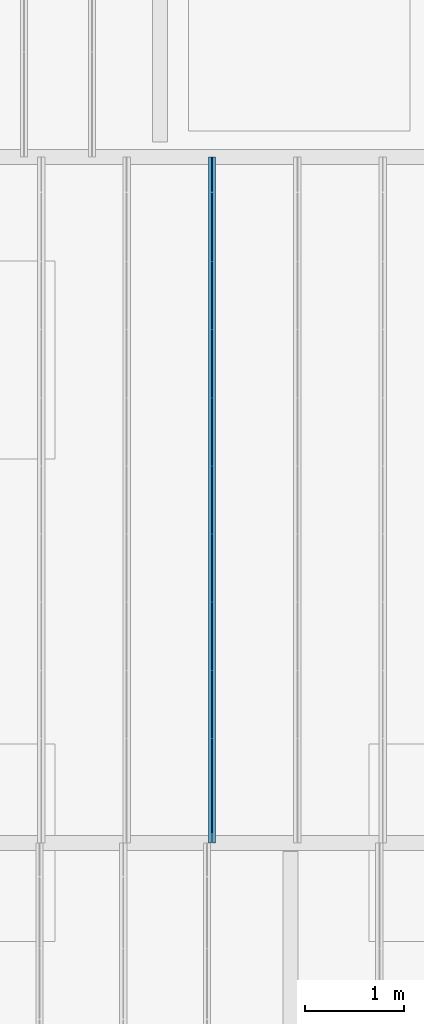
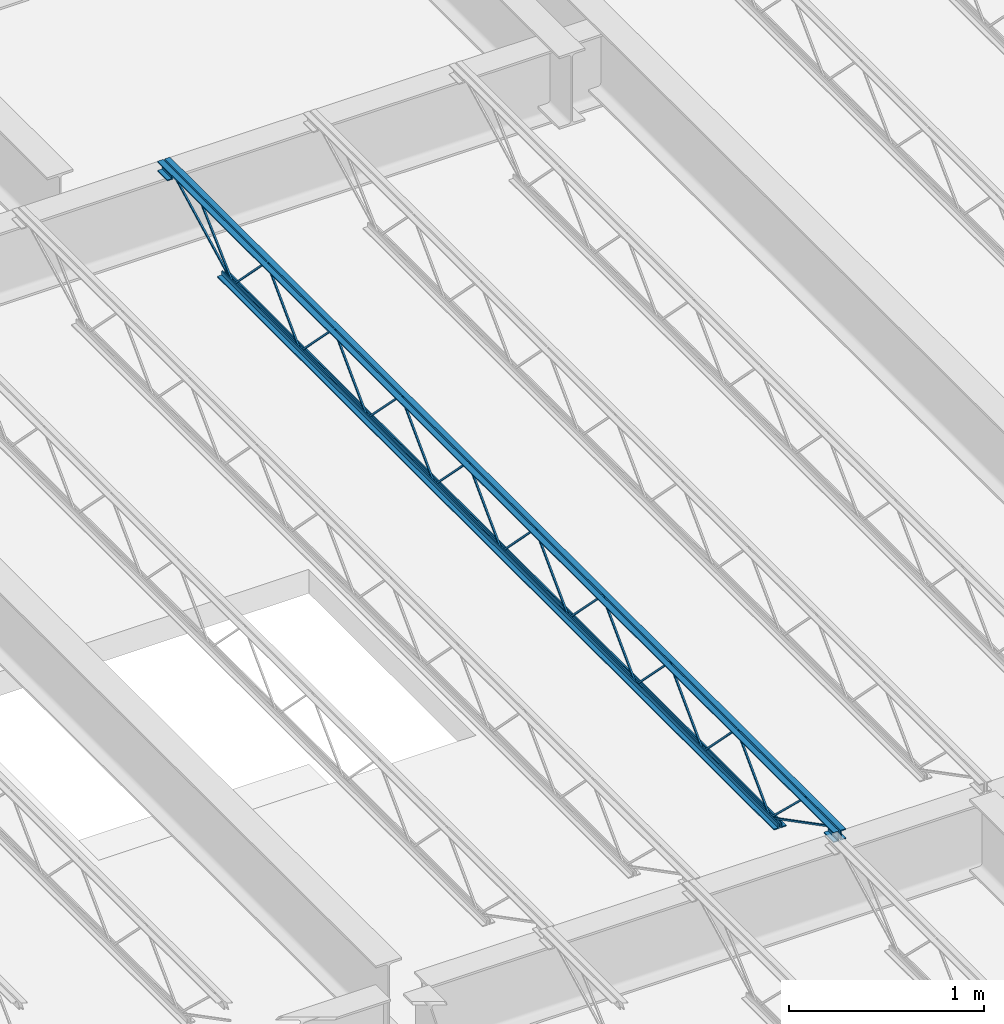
# One storey, part 26 of 75: 1 beam.
"""IFC2X3 building model written with IfcOpenShell, lengths in metres."""

from ifc_helpers import new_model, entity, si_unit, converted_unit, frame, origin, place, context, project, spatial, face_set, surface_model, element, save


model = new_model("IFC2X3")

# Units and contexts
model_context = context("Model", 3, precision=1e-09, world=origin())
plan_context = context("Plan", 3, precision=1e-09, world=origin())
ifc_project = project(units=[si_unit("LENGTHUNIT", "METRE"), si_unit("AREAUNIT", "SQUARE_METRE"), si_unit("VOLUMEUNIT", "CUBIC_METRE"), converted_unit("PLANEANGLEUNIT", "DEGREE", entity("IfcRatioMeasure", 0.01745329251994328), si_unit("PLANEANGLEUNIT", "RADIAN"), dimensions=[0, 0, 0, 0, 0, 0, 0]), si_unit("TIMEUNIT", "SECOND")], contexts=[model_context, plan_context])

# Site, building, storey
site_placement = place(None, origin())
site = spatial("IfcSite", under=ifc_project, at=site_placement, Name="Default", CompositionType="ELEMENT")
building_placement = place(site_placement, origin())
building = spatial("IfcBuilding", under=site, at=building_placement, CompositionType="ELEMENT")
storey_placement = place(building_placement, origin())
storey = spatial("IfcBuildingStorey", under=building, at=storey_placement, Name="First Floor", CompositionType="ELEMENT", Elevation=-3.531500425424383e-13)

# Beam
beam_placement = place(storey_placement, frame((-17.50673749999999, 18.61003029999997, 4.112000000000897), z_axis=(0.0, 0.0, 1.0), x_axis=(-1.0, 0.0, 0.0)))
element("IfcBeam", 1, at=beam_placement, inside=storey, Name="M_K-Series Bar Joist-Rod Web:14K1:14K1", ObjectType="M_K-Series Bar Joist-Rod Web:14K1", context=model_context, shape_type="SurfaceModel", body=[
    surface_model("IfcFaceBasedSurfaceModel", [(-0.03200000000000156, -2.089750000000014, 0.01110000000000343), (-0.04149999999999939, -2.089750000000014, 0.01110000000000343), (-0.04149999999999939, -2.089750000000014, 0.001600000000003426), (-0.03200000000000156, -2.089750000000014, 0.001600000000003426), (-0.04150000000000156, -2.088563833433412, 0.01110000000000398), (-0.03200000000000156, -2.088563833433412, 0.01110000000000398), (-0.0414999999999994, -2.084586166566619, 0.001600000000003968), (-0.04149999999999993, -1.746498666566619, 0.3449000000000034), (-0.04149999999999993, -1.744126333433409, 0.3449000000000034), (-0.04150000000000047, -1.406038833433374, 0.001600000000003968), (-0.04150000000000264, -1.400875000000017, 0.001600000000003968), (-0.04150000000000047, -1.400875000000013, 0.01110000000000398), (-0.04150000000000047, -1.402061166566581, 0.01110000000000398), (-0.04149999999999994, -1.74014866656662, 0.3544000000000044), (-0.04149999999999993, -1.750476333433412, 0.3544000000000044), (-0.0319999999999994, -2.084586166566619, 0.001600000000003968), (-0.03200000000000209, -1.746498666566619, 0.3449000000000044), (-0.0320000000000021, -1.744126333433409, 0.3449000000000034), (-0.03200000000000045, -1.406038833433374, 0.001600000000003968), (-0.03200000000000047, -1.400875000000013, 0.001600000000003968), (-0.03200000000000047, -1.400875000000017, 0.01110000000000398), (-0.03200000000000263, -1.402061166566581, 0.01110000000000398), (-0.0320000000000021, -1.74014866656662, 0.3544000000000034), (-0.03200000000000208, -1.750476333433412, 0.3544000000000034), (-0.03200000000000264, -2.778625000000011, 0.01110000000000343), (-0.04150000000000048, -2.778625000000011, 0.01110000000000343), (-0.04150000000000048, -2.778625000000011, 0.001600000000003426), (-0.03200000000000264, -2.778625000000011, 0.001600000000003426), (-0.04150000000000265, -2.777438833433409, 0.01110000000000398), (-0.03200000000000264, -2.777438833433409, 0.01110000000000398), (-0.04149999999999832, -2.773461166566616, 0.001600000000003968), (-0.04149999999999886, -2.435373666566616, 0.3449000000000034), (-0.04149999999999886, -2.433001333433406, 0.3449000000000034), (-0.04149999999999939, -2.094913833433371, 0.001600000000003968), (-0.04150000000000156, -2.08975000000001, 0.001600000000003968), (-0.04150000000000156, -2.08975000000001, 0.01110000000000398), (-0.04150000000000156, -2.090936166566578, 0.01110000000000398), (-0.04150000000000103, -2.429023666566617, 0.3544000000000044), (-0.04150000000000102, -2.439351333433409, 0.3544000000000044), (-0.03200000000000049, -2.773461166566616, 0.001600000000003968), (-0.03200000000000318, -2.435373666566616, 0.3449000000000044), (-0.03200000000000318, -2.433001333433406, 0.3449000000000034), (-0.03200000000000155, -2.094913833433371, 0.001600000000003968), (-0.03200000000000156, -2.08975000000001, 0.001600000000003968), (-0.03199999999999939, -2.08975000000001, 0.01110000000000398), (-0.03200000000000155, -2.090936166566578, 0.01110000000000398), (-0.03200000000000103, -2.429023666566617, 0.3544000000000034), (-0.03200000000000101, -2.439351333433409, 0.3544000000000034), (-0.03200000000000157, -3.467500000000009, 0.01110000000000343), (-0.04149999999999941, -3.467500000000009, 0.01110000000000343), (-0.04149999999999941, -3.467500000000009, 0.001600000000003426), (-0.03200000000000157, -3.467500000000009, 0.001600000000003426), (-0.04150000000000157, -3.466313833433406, 0.01110000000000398), (-0.03200000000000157, -3.466313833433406, 0.01110000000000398), (-0.04149999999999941, -3.462336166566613, 0.001600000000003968), (-0.04149999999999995, -3.124248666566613, 0.3449000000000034), (-0.04149999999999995, -3.121876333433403, 0.3449000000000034), (-0.04150000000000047, -2.783788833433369, 0.001600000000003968), (-0.04150000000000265, -2.778625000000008, 0.001600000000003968), (-0.04150000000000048, -2.778625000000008, 0.01110000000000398), (-0.04150000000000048, -2.779811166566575, 0.01110000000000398), (-0.04149999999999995, -3.117898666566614, 0.3544000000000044), (-0.04149999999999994, -3.128226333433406, 0.3544000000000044), (-0.03199999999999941, -3.462336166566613, 0.001600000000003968), (-0.0320000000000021, -3.124248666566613, 0.3449000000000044), (-0.03200000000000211, -3.121876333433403, 0.3449000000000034), (-0.03200000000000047, -2.783788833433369, 0.001600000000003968), (-0.03200000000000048, -2.778625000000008, 0.001600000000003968), (-0.03200000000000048, -2.778625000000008, 0.01110000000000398), (-0.03200000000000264, -2.779811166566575, 0.01110000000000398), (-0.03200000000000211, -3.117898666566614, 0.3544000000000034), (-0.0320000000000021, -3.128226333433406, 0.3544000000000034), (-0.03200000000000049, -4.156375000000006, 0.01110000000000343), (-0.04149999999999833, -4.156375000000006, 0.01110000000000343), (-0.04149999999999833, -4.156375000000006, 0.001600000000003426), (-0.03200000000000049, -4.156375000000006, 0.001600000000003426), (-0.0415000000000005, -4.155188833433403, 0.01110000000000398), (-0.03200000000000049, -4.155188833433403, 0.01110000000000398), (-0.04149999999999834, -4.15121116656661, 0.001600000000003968), (-0.04149999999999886, -3.81312366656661, 0.3449000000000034), (-0.04149999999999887, -3.8107513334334, 0.3449000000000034), (-0.0414999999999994, -3.472663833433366, 0.001600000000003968), (-0.04150000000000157, -3.467500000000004, 0.001600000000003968), (-0.04149999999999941, -3.467500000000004, 0.01110000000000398), (-0.04149999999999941, -3.468686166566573, 0.01110000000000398), (-0.04149999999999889, -3.806773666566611, 0.3544000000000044), (-0.04149999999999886, -3.817101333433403, 0.3544000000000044), (-0.03199999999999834, -4.15121116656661, 0.001600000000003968), (-0.03200000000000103, -3.81312366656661, 0.3449000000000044), (-0.03200000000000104, -3.8107513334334, 0.3449000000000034), (-0.03199999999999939, -3.472663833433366, 0.001600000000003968), (-0.0319999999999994, -3.467500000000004, 0.001600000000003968), (-0.0319999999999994, -3.467500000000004, 0.01110000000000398), (-0.03200000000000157, -3.468686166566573, 0.01110000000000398), (-0.03200000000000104, -3.806773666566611, 0.3544000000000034), (-0.03200000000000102, -3.817101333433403, 0.3544000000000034), (-0.03200000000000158, -4.845250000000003, 0.01110000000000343), (-0.04149999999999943, -4.845250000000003, 0.01110000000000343), (-0.04149999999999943, -4.845250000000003, 0.001600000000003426), (-0.03200000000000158, -4.845250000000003, 0.001600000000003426), (-0.04150000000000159, -4.844063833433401, 0.01110000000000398), (-0.03200000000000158, -4.844063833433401, 0.01110000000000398), (-0.04149999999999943, -4.840086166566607, 0.001600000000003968), (-0.04149999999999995, -4.501998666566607, 0.3449000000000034), (-0.04149999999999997, -4.499626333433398, 0.3449000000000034), (-0.04150000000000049, -4.161538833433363, 0.001600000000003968), (-0.0415000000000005, -4.156375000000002, 0.001600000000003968), (-0.0415000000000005, -4.156375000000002, 0.01110000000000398), (-0.0415000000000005, -4.15756116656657, 0.01110000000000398), (-0.04149999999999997, -4.495648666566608, 0.3544000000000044), (-0.04149999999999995, -4.5059763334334, 0.3544000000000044), (-0.03199999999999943, -4.840086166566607, 0.001600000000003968), (-0.03200000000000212, -4.501998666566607, 0.3449000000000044), (-0.03200000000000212, -4.499626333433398, 0.3449000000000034), (-0.03200000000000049, -4.161538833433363, 0.001600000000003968), (-0.03200000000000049, -4.156375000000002, 0.001600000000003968), (-0.03199999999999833, -4.156375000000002, 0.01110000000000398), (-0.03200000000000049, -4.15756116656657, 0.01110000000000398), (-0.03200000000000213, -4.495648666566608, 0.3544000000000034), (-0.03200000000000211, -4.505976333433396, 0.3544000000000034), (-0.03200000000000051, -5.534125, 0.01110000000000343), (-0.04149999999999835, -5.534125, 0.01110000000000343), (-0.04149999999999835, -5.534125, 0.001600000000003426), (-0.03200000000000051, -5.534125, 0.001600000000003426), (-0.04150000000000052, -5.532938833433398, 0.01110000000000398), (-0.03200000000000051, -5.532938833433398, 0.01110000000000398), (-0.04149999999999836, -5.528961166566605, 0.001600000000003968), (-0.04149999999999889, -5.190873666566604, 0.3449000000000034), (-0.04149999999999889, -5.188501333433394, 0.3449000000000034), (-0.04149999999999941, -4.85041383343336, 0.001600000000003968), (-0.04150000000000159, -4.845249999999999, 0.001600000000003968), (-0.04149999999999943, -4.845249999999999, 0.01110000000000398), (-0.04149999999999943, -4.846436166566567, 0.01110000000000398), (-0.04149999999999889, -5.184523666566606, 0.3544000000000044), (-0.04149999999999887, -5.194851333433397, 0.3544000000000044), (-0.03199999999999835, -5.528961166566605, 0.001600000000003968), (-0.03200000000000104, -5.190873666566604, 0.3449000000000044), (-0.03200000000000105, -5.188501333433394, 0.3449000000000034), (-0.03199999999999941, -4.85041383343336, 0.001600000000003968), (-0.03199999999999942, -4.845249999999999, 0.001600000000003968), (-0.03199999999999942, -4.845249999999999, 0.01110000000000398), (-0.03200000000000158, -4.846436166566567, 0.01110000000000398), (-0.03200000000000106, -5.184523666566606, 0.3544000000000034), (-0.03200000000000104, -5.194851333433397, 0.3544000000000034), (-0.0320000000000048, -1.400875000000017, 0.01109999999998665), (-0.04150000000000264, -1.400875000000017, 0.01109999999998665), (-0.04150000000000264, -1.400875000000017, 0.001599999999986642), (-0.0320000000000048, -1.400875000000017, 0.001599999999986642), (-0.04150000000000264, -1.399688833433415, 0.01109999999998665), (-0.03200000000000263, -1.399688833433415, 0.01109999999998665), (-0.04150000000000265, -1.395711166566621, 0.001599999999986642), (-0.04150000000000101, -1.057623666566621, 0.3448999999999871), (-0.04150000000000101, -1.055251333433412, 0.3448999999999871), (-0.04150000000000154, -0.717163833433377, 0.001599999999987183), (-0.04150000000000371, -0.7120000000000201, 0.001599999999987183), (-0.04150000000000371, -0.7120000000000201, 0.01109999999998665), (-0.04150000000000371, -0.7131861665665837, 0.01109999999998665), (-0.04150000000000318, -1.051273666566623, 0.3543999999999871), (-0.04150000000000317, -1.061601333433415, 0.3543999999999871), (-0.03200000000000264, -1.395711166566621, 0.001599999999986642), (-0.03200000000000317, -1.057623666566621, 0.3448999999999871), (-0.03200000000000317, -1.055251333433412, 0.3448999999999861), (-0.03200000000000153, -0.717163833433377, 0.001599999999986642), (-0.03200000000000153, -0.7120000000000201, 0.001599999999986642), (-0.03200000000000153, -0.7120000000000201, 0.01109999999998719), (-0.03200000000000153, -0.7131861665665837, 0.01109999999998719), (-0.03200000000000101, -1.051273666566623, 0.3543999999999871), (-0.03200000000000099, -1.061601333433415, 0.3543999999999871), (-0.0320000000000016, -6.222999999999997, 0.01110000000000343), (-0.04149999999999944, -6.222999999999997, 0.01110000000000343), (-0.04149999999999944, -6.222999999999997, 0.001600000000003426), (-0.0320000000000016, -6.222999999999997, 0.001600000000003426), (-0.04150000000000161, -6.221813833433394, 0.01110000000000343), (-0.0320000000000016, -6.221813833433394, 0.01110000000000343), (-0.04149999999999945, -6.217836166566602, 0.001600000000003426), (-0.04149999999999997, -5.879748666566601, 0.3449000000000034), (-0.04149999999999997, -5.877376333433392, 0.3449000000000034), (-0.04149999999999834, -5.539288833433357, 0.001600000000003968), (-0.04150000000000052, -5.534124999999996, 0.001600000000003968), (-0.04150000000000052, -5.534124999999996, 0.01110000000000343), (-0.04150000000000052, -5.535311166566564, 0.01110000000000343), (-0.04149999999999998, -5.873398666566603, 0.3544000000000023), (-0.04149999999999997, -5.883726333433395, 0.3544000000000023), (-0.03199999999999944, -6.217836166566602, 0.001600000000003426), (-0.03200000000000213, -5.879748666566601, 0.3449000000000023), (-0.03200000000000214, -5.877376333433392, 0.3449000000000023), (-0.0320000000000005, -5.539288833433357, 0.001600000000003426), (-0.03200000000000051, -5.534124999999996, 0.001600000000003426), (-0.03199999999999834, -5.534124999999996, 0.01110000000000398), (-0.03200000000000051, -5.535311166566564, 0.01110000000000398), (-0.03200000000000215, -5.873398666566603, 0.3544000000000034), (-0.03200000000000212, -5.883726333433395, 0.3544000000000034), (-0.04150000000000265, 0.0, 0.3559999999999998), (-0.07350000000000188, 0.0, 0.3559999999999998), (-0.07350000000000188, 0.0, 0.349499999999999), (-0.04800000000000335, 0.0, 0.349499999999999), (-0.04800000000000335, 0.0, 0.3239999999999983), (-0.04150000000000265, 0.0, 0.3239999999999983), (-0.03200000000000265, 0.0, 0.3559999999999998), (-0.03200000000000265, 0.0, 0.3239999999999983), (-0.02550000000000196, 0.0, 0.3239999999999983), (-0.02550000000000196, 0.0, 0.349499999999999), (0.0, 0.0, 0.349499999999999), (0.0, 0.0, 0.3559999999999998), (-0.04150000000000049, -6.935000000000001, 0.3559999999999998), (-0.07349999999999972, -6.935000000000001, 0.3559999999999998), (-0.07349999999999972, -6.935000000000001, 0.349499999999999), (-0.04800000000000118, -6.935000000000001, 0.349499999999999), (-0.04800000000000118, -6.935000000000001, 0.3239999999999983), (-0.04150000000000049, -6.935000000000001, 0.3239999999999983), (-0.03200000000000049, -6.935000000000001, 0.3559999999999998), (-0.03200000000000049, -6.935000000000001, 0.3239999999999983), (-0.02549999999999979, -6.935000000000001, 0.3239999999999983), (-0.02549999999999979, -6.935000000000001, 0.349499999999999), (0.0, -6.935000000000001, 0.349499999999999), (0.0, -6.935000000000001, 0.3559999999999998), (-0.03200000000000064, -6.835000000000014, 0.2924999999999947), (0.0, -6.835000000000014, 0.2924999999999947), (0.0, -6.835000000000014, 0.2989999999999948), (-0.02549999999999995, -6.835000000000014, 0.2989999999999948), (-0.02549999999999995, -6.835000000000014, 0.3239999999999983), (-0.03200000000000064, -6.835000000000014, 0.3239999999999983), (-0.07349999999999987, -6.835000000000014, 0.2924999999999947), (-0.04150000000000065, -6.835000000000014, 0.2924999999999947), (-0.04150000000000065, -6.835000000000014, 0.3239999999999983), (-0.04800000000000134, -6.835000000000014, 0.3239999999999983), (-0.04800000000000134, -6.835000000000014, 0.2989999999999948), (-0.07349999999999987, -6.835000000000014, 0.2989999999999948), (-0.03200000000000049, -6.935000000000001, 0.2924999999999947), (0.0, -6.935000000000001, 0.2924999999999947), (0.0, -6.935000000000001, 0.2989999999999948), (-0.02549999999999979, -6.935000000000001, 0.2989999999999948), (-0.07349999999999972, -6.935000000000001, 0.2924999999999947), (-0.04150000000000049, -6.935000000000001, 0.2924999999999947), (-0.04800000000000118, -6.935000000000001, 0.2989999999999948), (-0.07349999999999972, -6.935000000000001, 0.2989999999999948), (-0.04150000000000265, 0.0, 0.2924999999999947), (-0.04800000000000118, 0.0, 0.3239999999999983), (-0.04800000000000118, 0.0, 0.2989999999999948), (-0.07350000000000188, 0.0, 0.2989999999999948), (-0.07350000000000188, 0.0, 0.2924999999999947), (-0.03200000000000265, 0.0, 0.2924999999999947), (0.0, 0.0, 0.2924999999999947), (0.0, 0.0, 0.2989999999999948), (-0.02550000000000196, 0.0, 0.2989999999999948), (-0.0415000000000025, -0.1000000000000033, 0.2924999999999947), (-0.0415000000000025, -0.1000000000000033, 0.3239999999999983), (-0.04800000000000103, -0.1000000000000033, 0.3239999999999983), (-0.04800000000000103, -0.1000000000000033, 0.2989999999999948), (-0.07350000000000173, -0.1000000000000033, 0.2989999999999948), (-0.07350000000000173, -0.1000000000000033, 0.2924999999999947), (-0.03200000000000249, -0.1000000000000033, 0.2924999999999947), (0.0, -0.1000000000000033, 0.2924999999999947), (0.0, -0.1000000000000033, 0.2989999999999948), (-0.02550000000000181, -0.1000000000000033, 0.2989999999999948), (-0.02550000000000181, -0.1000000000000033, 0.3239999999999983), (-0.03200000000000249, -0.1000000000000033, 0.3239999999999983), (-0.0415000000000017, -0.6119999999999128, 0.0), (-0.0415000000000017, -0.6119999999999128, 0.03199999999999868), (-0.04800000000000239, -0.6119999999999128, 0.03199999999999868), (-0.04800000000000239, -0.6119999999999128, 0.006499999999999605), (-0.07350000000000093, -0.6119999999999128, 0.006499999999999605), (-0.07350000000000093, -0.6119999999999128, 0.0), (-0.03200000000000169, -0.6119999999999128, 0.0), (0.0, -0.6119999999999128, 0.0), (0.0, -0.6119999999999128, 0.006499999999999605), (-0.02550000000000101, -0.6119999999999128, 0.006499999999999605), (-0.02550000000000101, -0.6119999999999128, 0.03199999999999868), (-0.03200000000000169, -0.6119999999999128, 0.03199999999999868), (-0.04150000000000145, -6.322999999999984, 0.0), (-0.04150000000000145, -6.322999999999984, 0.03199999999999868), (-0.04800000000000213, -6.322999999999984, 0.03199999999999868), (-0.04800000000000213, -6.322999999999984, 0.006499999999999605), (-0.07350000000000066, -6.322999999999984, 0.006499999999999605), (-0.07350000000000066, -6.322999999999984, 0.0), (-0.03200000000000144, -6.322999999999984, 0.0), (0.0, -6.322999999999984, 0.0), (0.0, -6.322999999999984, 0.006499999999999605), (-0.02550000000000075, -6.322999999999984, 0.006499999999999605), (-0.02550000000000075, -6.322999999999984, 0.03199999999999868), (-0.03200000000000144, -6.322999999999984, 0.03199999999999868), (-0.03199999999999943, -6.220811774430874, 0.01056594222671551), (-0.04149999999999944, -6.220811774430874, 0.01056594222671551), (-0.04149999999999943, -6.225188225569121, 0.002134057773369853), (-0.03200000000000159, -6.225188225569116, 0.002134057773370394), (-0.03199999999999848, -6.833840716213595, 0.3287499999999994), (-0.03200000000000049, -6.934999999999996, 0.3287499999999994), (-0.03200000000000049, -6.935000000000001, 0.3192499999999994), (-0.03200000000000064, -6.836159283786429, 0.3192499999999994), (-0.04149999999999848, -6.836159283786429, 0.3192499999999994), (-0.04149999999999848, -6.833840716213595, 0.3287499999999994), (-0.04149999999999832, -6.935000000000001, 0.3287499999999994), (-0.04150000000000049, -6.934999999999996, 0.3192499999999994), (-0.03200000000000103, -6.587394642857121, 0.341700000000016), (-0.04149999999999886, -6.587394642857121, 0.341700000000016), (-0.04149999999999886, -6.587394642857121, 0.332200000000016), (-0.03200000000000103, -6.587394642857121, 0.332200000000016), (-0.04150000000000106, -6.572812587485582, 0.341700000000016), (-0.03200000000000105, -6.572812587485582, 0.341700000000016), (-0.04149999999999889, -6.576576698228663, 0.332200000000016), (-0.04149999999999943, -6.226253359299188, 0.002889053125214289), (-0.04149999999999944, -6.219746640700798, 0.009810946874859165), (-0.03199999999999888, -6.576576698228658, 0.332200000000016), (-0.03200000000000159, -6.226253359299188, 0.002889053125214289), (-0.03199999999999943, -6.219746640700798, 0.009810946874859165), (-0.0320000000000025, -0.09781177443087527, 0.3197840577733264), (-0.03200000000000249, -0.1021882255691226, 0.3282159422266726), (-0.04150000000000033, -0.1021882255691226, 0.3282159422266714), (-0.04150000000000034, -0.09781177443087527, 0.3197840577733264), (-0.03200000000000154, -0.7098117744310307, 0.002134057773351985), (-0.03200000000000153, -0.7141882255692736, 0.01056594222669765), (-0.04149999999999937, -0.7141882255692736, 0.01056594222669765), (-0.04149999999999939, -0.7098117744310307, 0.002134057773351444), (-0.03199999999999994, -0.3497651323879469, 0.3462172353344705), (-0.0320000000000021, -0.3563312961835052, 0.3530827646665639), (-0.0415000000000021, -0.3563312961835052, 0.3530827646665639), (-0.04149999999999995, -0.3497651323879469, 0.3462172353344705), (-0.03199999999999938, -0.7087169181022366, 0.00291723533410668), (-0.03200000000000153, -0.7152830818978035, 0.009782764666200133), (-0.04150000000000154, -0.7152830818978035, 0.009782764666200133), (-0.04149999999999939, -0.7087169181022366, 0.00291723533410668)], [face_set([[[0, 1, 2, 3]], [[1, 4, 5, 0]], [[2, 6, 7, 8, 9, 10, 11, 12, 13, 14, 4, 1]], [[3, 2, 6, 15]], [[0, 3, 15, 16, 17, 18, 19, 20, 21, 22, 23, 5]], [[4, 5, 23, 14]], [[15, 16, 7, 6]], [[14, 13, 22, 23]], [[16, 7, 8, 17]], [[13, 12, 21, 22]], [[17, 8, 9, 18]], [[20, 11, 10, 19]], [[12, 11, 20, 21]], [[18, 9, 10, 19]]]), face_set([[[24, 25, 26, 27]], [[25, 28, 29, 24]], [[26, 30, 31, 32, 33, 34, 35, 36, 37, 38, 28, 25]], [[27, 26, 30, 39]], [[24, 27, 39, 40, 41, 42, 43, 44, 45, 46, 47, 29]], [[28, 29, 47, 38]], [[39, 40, 31, 30]], [[38, 37, 46, 47]], [[40, 31, 32, 41]], [[37, 36, 45, 46]], [[41, 32, 33, 42]], [[44, 35, 34, 43]], [[36, 35, 44, 45]], [[42, 33, 34, 43]]]), face_set([[[48, 49, 50, 51]], [[49, 52, 53, 48]], [[50, 54, 55, 56, 57, 58, 59, 60, 61, 62, 52, 49]], [[51, 50, 54, 63]], [[48, 51, 63, 64, 65, 66, 67, 68, 69, 70, 71, 53]], [[52, 53, 71, 62]], [[63, 64, 55, 54]], [[62, 61, 70, 71]], [[64, 55, 56, 65]], [[61, 60, 69, 70]], [[65, 56, 57, 66]], [[68, 59, 58, 67]], [[60, 59, 68, 69]], [[66, 57, 58, 67]]]), face_set([[[72, 73, 74, 75]], [[73, 76, 77, 72]], [[74, 78, 79, 80, 81, 82, 83, 84, 85, 86, 76, 73]], [[75, 74, 78, 87]], [[72, 75, 87, 88, 89, 90, 91, 92, 93, 94, 95, 77]], [[76, 77, 95, 86]], [[87, 88, 79, 78]], [[86, 85, 94, 95]], [[88, 79, 80, 89]], [[85, 84, 93, 94]], [[89, 80, 81, 90]], [[92, 83, 82, 91]], [[84, 83, 92, 93]], [[90, 81, 82, 91]]]), face_set([[[96, 97, 98, 99]], [[97, 100, 101, 96]], [[98, 102, 103, 104, 105, 106, 107, 108, 109, 110, 100, 97]], [[99, 98, 102, 111]], [[96, 99, 111, 112, 113, 114, 115, 116, 117, 118, 119, 101]], [[100, 101, 119, 110]], [[111, 112, 103, 102]], [[110, 109, 118, 119]], [[112, 103, 104, 113]], [[109, 108, 117, 118]], [[113, 104, 105, 114]], [[116, 107, 106, 115]], [[108, 107, 116, 117]], [[114, 105, 106, 115]]]), face_set([[[120, 121, 122, 123]], [[121, 124, 125, 120]], [[122, 126, 127, 128, 129, 130, 131, 132, 133, 134, 124, 121]], [[123, 122, 126, 135]], [[120, 123, 135, 136, 137, 138, 139, 140, 141, 142, 143, 125]], [[124, 125, 143, 134]], [[135, 136, 127, 126]], [[134, 133, 142, 143]], [[136, 127, 128, 137]], [[133, 132, 141, 142]], [[137, 128, 129, 138]], [[140, 131, 130, 139]], [[132, 131, 140, 141]], [[138, 129, 130, 139]]]), face_set([[[144, 145, 146, 147]], [[145, 148, 149, 144]], [[146, 150, 151, 152, 153, 154, 155, 156, 157, 158, 148, 145]], [[147, 146, 150, 159]], [[144, 147, 159, 160, 161, 162, 163, 164, 165, 166, 167, 149]], [[148, 149, 167, 158]], [[159, 160, 151, 150]], [[158, 157, 166, 167]], [[160, 151, 152, 161]], [[157, 156, 165, 166]], [[161, 152, 153, 162]], [[164, 155, 154, 163]], [[156, 155, 164, 165]], [[162, 153, 154, 163]]]), face_set([[[168, 169, 170, 171]], [[169, 172, 173, 168]], [[170, 174, 175, 176, 177, 178, 179, 180, 181, 182, 172, 169]], [[171, 170, 174, 183]], [[168, 171, 183, 184, 185, 186, 187, 188, 189, 190, 191, 173]], [[172, 173, 191, 182]], [[183, 184, 175, 174]], [[182, 181, 190, 191]], [[184, 175, 176, 185]], [[181, 180, 189, 190]], [[185, 176, 177, 186]], [[188, 179, 178, 187]], [[180, 179, 188, 189]], [[186, 177, 178, 187]]]), face_set([[[192, 193, 194, 195, 196, 197]], [[198, 199, 200, 201, 202, 203]], [[204, 205, 206, 207, 208, 209]], [[210, 211, 212, 213, 214, 215]], [[197, 192, 204, 209]], [[196, 197, 209, 208]], [[195, 207, 208, 196]], [[194, 195, 207, 206]], [[193, 205, 206, 194]], [[192, 204, 205, 193]], [[203, 215, 210, 198]], [[202, 203, 215, 214]], [[201, 202, 214, 213]], [[200, 201, 213, 212]], [[199, 200, 212, 211]], [[198, 210, 211, 199]]]), face_set([[[216, 217, 218, 219, 220, 221]], [[222, 223, 224, 225, 226, 227]], [[228, 229, 230, 231, 212, 211]], [[232, 233, 209, 208, 234, 235]], [[221, 211, 228, 216]], [[220, 212, 211, 221]], [[219, 220, 212, 231]], [[218, 230, 231, 219]], [[217, 218, 230, 229]], [[216, 217, 229, 228]], [[227, 235, 232, 222]], [[226, 234, 235, 227]], [[225, 208, 234, 226]], [[224, 209, 208, 225]], [[223, 224, 209, 233]], [[222, 223, 233, 232]]]), face_set([[[236, 197, 237, 238, 239, 240]], [[241, 242, 243, 244, 200, 199]], [[245, 246, 247, 248, 249, 250]], [[251, 252, 253, 254, 255, 256]], [[240, 236, 245, 250]], [[239, 249, 250, 240]], [[238, 248, 249, 239]], [[237, 247, 248, 238]], [[197, 246, 247, 237]], [[236, 197, 246, 245]], [[199, 256, 251, 241]], [[200, 255, 256, 199]], [[244, 200, 255, 254]], [[243, 253, 254, 244]], [[242, 243, 253, 252]], [[241, 242, 252, 251]]]), face_set([[[257, 258, 259, 260, 261, 262]], [[263, 264, 265, 266, 267, 268]], [[269, 270, 271, 272, 273, 274]], [[275, 276, 277, 278, 279, 280]], [[262, 257, 269, 274]], [[261, 273, 274, 262]], [[260, 272, 273, 261]], [[259, 271, 272, 260]], [[258, 270, 271, 259]], [[257, 258, 270, 269]], [[268, 280, 275, 263]], [[267, 279, 280, 268]], [[266, 267, 279, 278]], [[265, 277, 278, 266]], [[264, 265, 277, 276]], [[263, 264, 276, 275]]]), face_set([[[281, 282, 283, 284]], [[284, 281, 285, 286, 287, 288]], [[283, 284, 288, 289]], [[282, 290, 291, 292, 289, 283]], [[281, 285, 290, 282]], [[286, 291, 292, 287]], [[289, 288, 287, 292]], [[285, 286, 291, 290]]]), face_set([[[293, 294, 295, 296]], [[294, 297, 298, 293]], [[295, 299, 300, 301, 297, 294]], [[296, 295, 299, 302]], [[293, 296, 302, 303, 304, 298]], [[304, 301, 300, 303]], [[297, 301, 304, 298]], [[302, 299, 300, 303]]]), face_set([[[305, 306, 307, 308]], [[309, 310, 311, 312]], [[308, 312, 309, 305]], [[307, 311, 312, 308]], [[306, 307, 311, 310]], [[305, 306, 310, 309]]]), face_set([[[313, 314, 315, 316]], [[317, 318, 319, 320]], [[316, 320, 317, 313]], [[315, 319, 320, 316]], [[314, 315, 319, 318]], [[313, 314, 318, 317]]])]),
])

save(model, "model.ifc")
